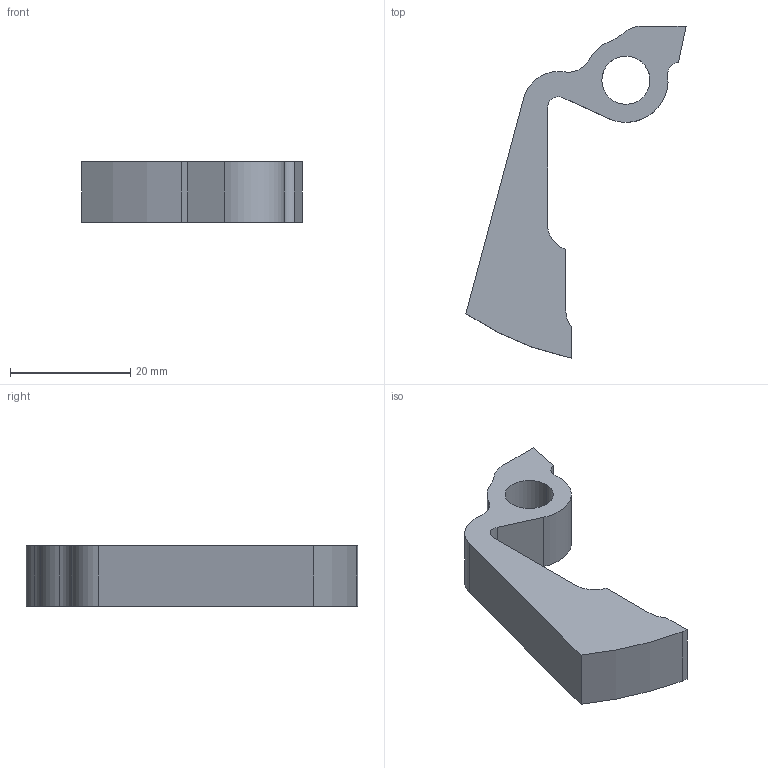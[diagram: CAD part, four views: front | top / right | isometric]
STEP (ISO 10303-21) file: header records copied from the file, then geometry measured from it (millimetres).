
FILE_DESCRIPTION(('CATIA V5 STEP Exchange'),'2;1');
FILE_NAME('C:\Users\user\Desktop\antivol\béta\3D\beta version metal v2\loquet.stp','2016-01-25T22:50:39+00:00',('none'),('none'),'CATIA Version 5 Release 18 GA (IN-10)','CATIA V5 STEP AP203','none');
FILE_SCHEMA(('CONFIG_CONTROL_DESIGN'));
Length unit declared in the file: millimetre
Products named in the file (1): loquet
Bounding box: 36.58 x 55.13 x 10 mm (x, y, z)
Volume: 6134.9 mm3; surface area: 3149 mm2
Topology: 1 solids, 1 shells, 23 faces, 63 edges, 42 vertices
Faces by surface type: cylinder 14, plane 9
Entity records: 753 total; most frequent: CARTESIAN_POINT 127, ORIENTED_EDGE 126, DIRECTION 105, EDGE_CURVE 63, AXIS2_PLACEMENT_3D 50, VERTEX_POINT 42, VECTOR 35, LINE 35
